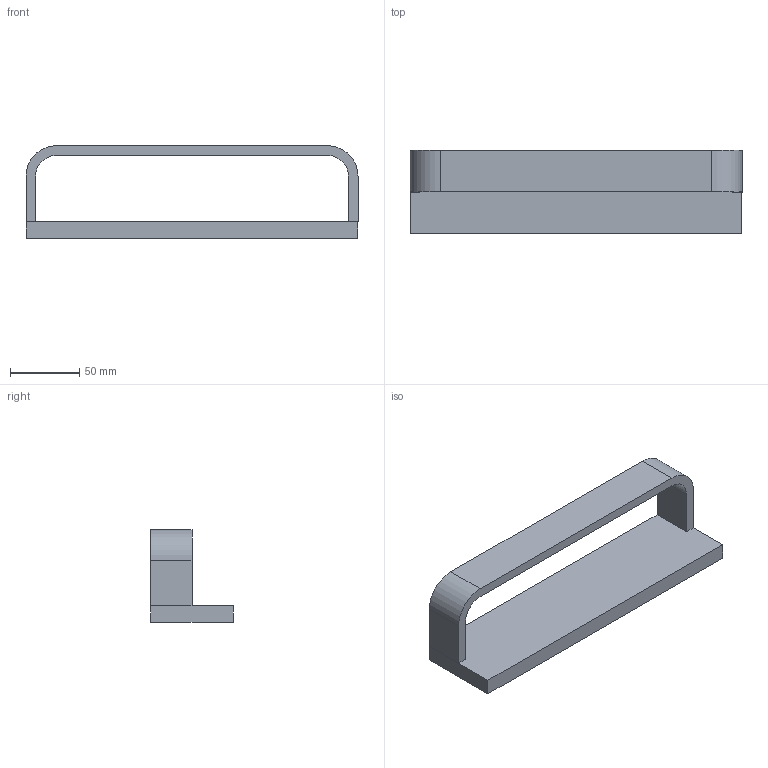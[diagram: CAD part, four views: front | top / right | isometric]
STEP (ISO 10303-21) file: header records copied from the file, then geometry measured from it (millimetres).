
FILE_DESCRIPTION(('FreeCAD Model'),'2;1');
FILE_NAME('Open CASCADE Shape Model','2024-08-10T18:51:16',('Author'),( ''),'Open CASCADE STEP processor 7.6','FreeCAD','Unknown');
FILE_SCHEMA(('AUTOMOTIVE_DESIGN { 1 0 10303 214 1 1 1 1 }'));
Length unit declared in the file: millimetre
Products named in the file (3): TopLevelAssembly; Wyciąganie001; Wyciąganie003
Assembly tree (2 placements, depth 2):
  TopLevelAssembly
    Wyciąganie001
    Wyciąganie003
Bounding box: 240 x 60 x 67 mm (x, y, z)
Volume: 240025.1 mm3; surface area: 60108.8 mm2
Topology: 2 solids, 2 shells, 20 faces, 48 edges, 32 vertices
Faces by surface type: plane 16, cylinder 4
Entity records: 646 total; most frequent: CARTESIAN_POINT 103, DIRECTION 102, ORIENTED_EDGE 96, EDGE_CURVE 48, LINE 40, VECTOR 40, VERTEX_POINT 32, AXIS2_PLACEMENT_3D 31
